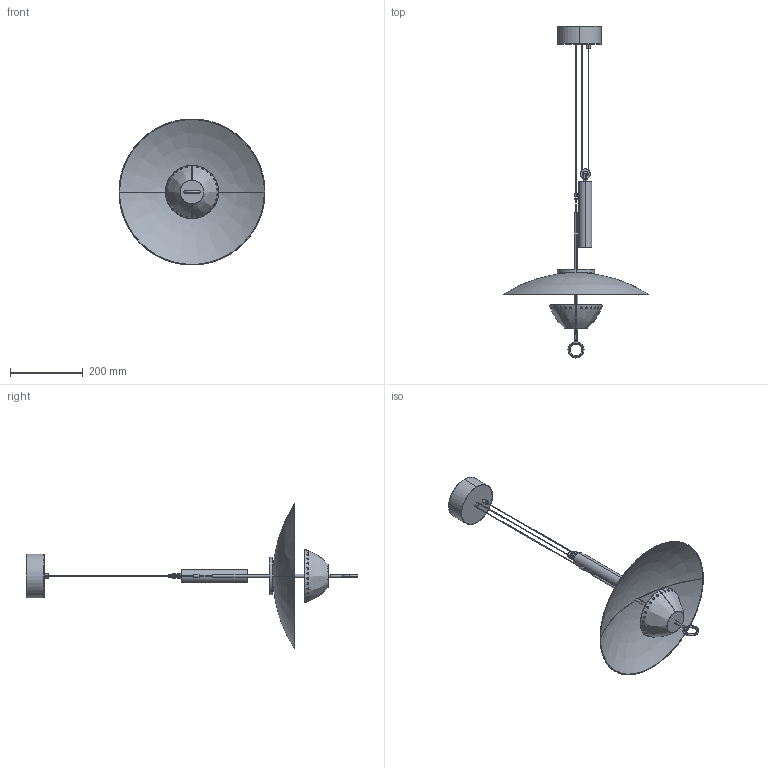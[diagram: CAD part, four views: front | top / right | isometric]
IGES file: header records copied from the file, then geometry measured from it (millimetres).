
Start section: SolidWorks IGES file using analytic representation for surfaces
Global section: file name: F:\燠隴矨\3D\2026-3\Gaetano Pendant Lamp.IGS,15; native system: HSolidWorks 2022; preprocessor: SolidWorks 2022; author: MyPC; date: 260309.095350; units: millimetre
Bounding box: 400 x 909.54 x 400 mm (x, y, z)
Surface area: 462652.9 mm2 (no closed solid volume)
Topology: 0 solids, 0 shells, 182 faces, 5608 edges, 5607 vertices
Faces by surface type: revolution 111, bspline 71
